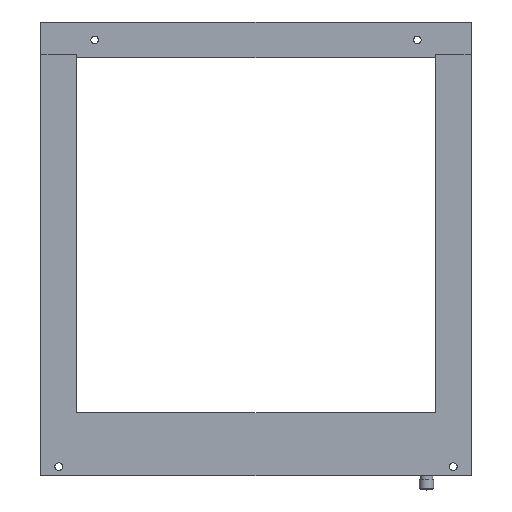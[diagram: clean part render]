
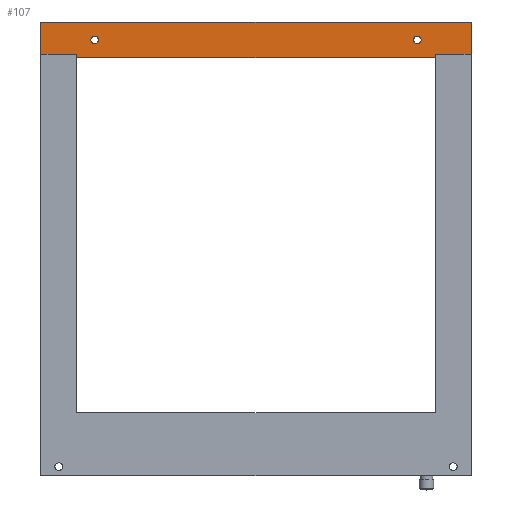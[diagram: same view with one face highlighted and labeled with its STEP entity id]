
A CAD part, top view. The second image highlights one B-rep face of the part: STEP entity #107.
In plain terms, the highlighted planar face has unit normal (0, 0, 1).
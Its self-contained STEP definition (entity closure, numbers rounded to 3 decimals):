
#107=ADVANCED_FACE('',(#247,#248,#249),#250,.T.);
#247=FACE_OUTER_BOUND('',#450,.T.);
#248=FACE_BOUND('',#451,.T.);
#249=FACE_BOUND('',#452,.T.);
#250=PLANE('',#453);
#450=EDGE_LOOP('',(#671,#672,#673,#674,#675,#676,#677,#678));
#451=EDGE_LOOP('',(#679,#680));
#452=EDGE_LOOP('',(#681,#682));
#453=AXIS2_PLACEMENT_3D('',#683,#684,#685);
#671=ORIENTED_EDGE('',*,*,#1166,.F.);
#672=ORIENTED_EDGE('',*,*,#1167,.F.);
#673=ORIENTED_EDGE('',*,*,#1168,.F.);
#674=ORIENTED_EDGE('',*,*,#1169,.F.);
#675=ORIENTED_EDGE('',*,*,#1170,.F.);
#676=ORIENTED_EDGE('',*,*,#1171,.T.);
#677=ORIENTED_EDGE('',*,*,#1172,.F.);
#678=ORIENTED_EDGE('',*,*,#1173,.F.);
#679=ORIENTED_EDGE('',*,*,#1174,.T.);
#680=ORIENTED_EDGE('',*,*,#1175,.T.);
#681=ORIENTED_EDGE('',*,*,#1176,.T.);
#682=ORIENTED_EDGE('',*,*,#1177,.T.);
#683=CARTESIAN_POINT('',(0.,120.654,10.0));
#684=DIRECTION('',(0.0,0.0,1.0));
#685=DIRECTION('',(1.0,0.0,0.0));
#1166=EDGE_CURVE('',#1445,#1446,#1447,.T.);
#1167=EDGE_CURVE('',#1448,#1445,#1449,.T.);
#1168=EDGE_CURVE('',#1450,#1448,#1451,.T.);
#1169=EDGE_CURVE('',#1452,#1450,#1453,.T.);
#1170=EDGE_CURVE('',#1454,#1452,#1455,.T.);
#1171=EDGE_CURVE('',#1454,#1456,#1457,.T.);
#1172=EDGE_CURVE('',#1458,#1456,#1459,.T.);
#1173=EDGE_CURVE('',#1446,#1458,#1460,.T.);
#1174=EDGE_CURVE('',#1461,#1462,#1463,.T.);
#1175=EDGE_CURVE('',#1462,#1461,#1464,.T.);
#1176=EDGE_CURVE('',#1465,#1466,#1467,.T.);
#1177=EDGE_CURVE('',#1466,#1465,#1468,.T.);
#1445=VERTEX_POINT('',#1890);
#1446=VERTEX_POINT('',#1891);
#1447=LINE('',#1892,#1893);
#1448=VERTEX_POINT('',#1894);
#1449=LINE('',#1895,#1896);
#1450=VERTEX_POINT('',#1897);
#1451=LINE('',#1898,#1899);
#1452=VERTEX_POINT('',#1900);
#1453=LINE('',#1901,#1902);
#1454=VERTEX_POINT('',#1903);
#1455=LINE('',#1904,#1905);
#1456=VERTEX_POINT('',#1906);
#1457=LINE('',#1907,#1908);
#1458=VERTEX_POINT('',#1909);
#1459=LINE('',#1910,#1911);
#1460=LINE('',#1912,#1913);
#1461=VERTEX_POINT('',#1914);
#1462=VERTEX_POINT('',#1915);
#1463=CIRCLE('',#1916,2.15);
#1464=CIRCLE('',#1917,2.15);
#1465=VERTEX_POINT('',#1918);
#1466=VERTEX_POINT('',#1919);
#1467=CIRCLE('',#1920,2.15);
#1468=CIRCLE('',#1921,2.15);
#1890=CARTESIAN_POINT('',(120.0,112.5,10.));
#1891=CARTESIAN_POINT('',(100.0,112.5,10.));
#1892=CARTESIAN_POINT('',(120.0,112.5,10.));
#1893=VECTOR('',#2412,20.0);
#1894=CARTESIAN_POINT('',(120.0,130.5,10.0));
#1895=CARTESIAN_POINT('',(120.0,130.5,10.0));
#1896=VECTOR('',#2413,1.0);
#1897=CARTESIAN_POINT('',(-120.0,130.5,10.0));
#1898=CARTESIAN_POINT('',(-120.0,130.5,10.0));
#1899=VECTOR('',#2414,1.0);
#1900=CARTESIAN_POINT('',(-120.0,112.5,10.));
#1901=CARTESIAN_POINT('',(-120.0,112.5,10.0));
#1902=VECTOR('',#2415,1.0);
#1903=CARTESIAN_POINT('',(-100.0,112.5,10.));
#1904=CARTESIAN_POINT('',(-100.0,112.5,10.));
#1905=VECTOR('',#2416,20.0);
#1906=CARTESIAN_POINT('',(-100.0,110.5,10.0));
#1907=CARTESIAN_POINT('',(-100.0,112.5,10.));
#1908=VECTOR('',#2417,200.0);
#1909=CARTESIAN_POINT('',(100.0,110.5,10.0));
#1910=CARTESIAN_POINT('',(100.0,110.5,10.0));
#1911=VECTOR('',#2418,1.0);
#1912=CARTESIAN_POINT('',(100.0,112.5,10.));
#1913=VECTOR('',#2419,200.0);
#1914=CARTESIAN_POINT('',(-92.15,120.5,10.0));
#1915=CARTESIAN_POINT('',(-87.85,120.5,10.0));
#1916=AXIS2_PLACEMENT_3D('',#2420,#2421,#2422);
#1917=AXIS2_PLACEMENT_3D('',#2423,#2424,#2425);
#1918=CARTESIAN_POINT('',(87.85,120.5,10.0));
#1919=CARTESIAN_POINT('',(92.15,120.5,10.0));
#1920=AXIS2_PLACEMENT_3D('',#2426,#2427,#2428);
#1921=AXIS2_PLACEMENT_3D('',#2429,#2430,#2431);
#2412=DIRECTION('',(-1.0,0.0,0.0));
#2413=DIRECTION('',(0.0,-1.0,0.0));
#2414=DIRECTION('',(1.0,0.0,0.0));
#2415=DIRECTION('',(0.,1.0,0.0));
#2416=DIRECTION('',(-1.0,0.0,0.0));
#2417=DIRECTION('',(0.,-1.0,0.0));
#2418=DIRECTION('',(-1.0,0.0,0.0));
#2419=DIRECTION('',(0.,-1.0,0.0));
#2420=CARTESIAN_POINT('',(-90.0,120.5,10.0));
#2421=DIRECTION('',(0.0,0.0,-1.0));
#2422=DIRECTION('',(1.0,0.0,0.0));
#2423=CARTESIAN_POINT('',(-90.0,120.5,10.0));
#2424=DIRECTION('',(0.0,0.0,-1.0));
#2425=DIRECTION('',(1.0,0.0,0.0));
#2426=CARTESIAN_POINT('',(90.0,120.5,10.0));
#2427=DIRECTION('',(0.0,0.0,-1.0));
#2428=DIRECTION('',(1.0,0.0,0.0));
#2429=CARTESIAN_POINT('',(90.0,120.5,10.0));
#2430=DIRECTION('',(0.0,0.0,-1.0));
#2431=DIRECTION('',(1.0,0.0,0.0));
